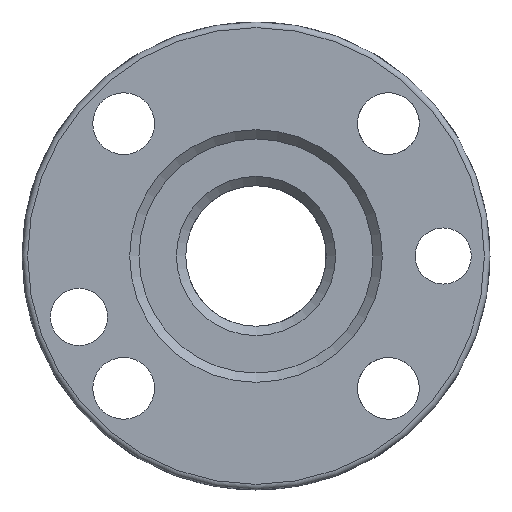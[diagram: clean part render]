
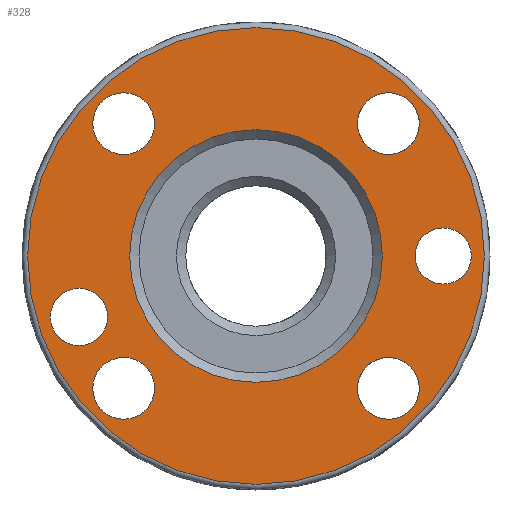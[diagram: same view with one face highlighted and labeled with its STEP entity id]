
A CAD part, front view. The second image highlights one B-rep face of the part: STEP entity #328.
In plain terms, the highlighted planar face has unit normal (0, -1, 0).
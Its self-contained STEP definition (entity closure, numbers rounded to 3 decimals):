
#73=CARTESIAN_POINT('',(-24.4,0.,0.0));
#74=VERTEX_POINT('',#73);
#75=CARTESIAN_POINT('',(0.,0.,0.0));
#76=DIRECTION('',(0.0,1.0,0.0));
#77=DIRECTION('',(1.0,0.0,0.0));
#78=AXIS2_PLACEMENT_3D('',#75,#76,#77);
#79=CIRCLE('',#78,24.4);
#80=EDGE_CURVE('',#74,#74,#79,.T.);
#243=CARTESIAN_POINT('',(-18.75,0.,0.0));
#244=DIRECTION('',(0.0,-1.0,0.0));
#245=DIRECTION('',(0.0,0.0,-1.0));
#246=AXIS2_PLACEMENT_3D('',#243,#244,#245);
#247=PLANE('',#246);
#248=ORIENTED_EDGE('',*,*,#80,.F.);
#249=EDGE_LOOP('',(#248));
#250=FACE_OUTER_BOUND('',#249,.T.);
#251=CARTESIAN_POINT('',(-13.5,0.,0.));
#252=VERTEX_POINT('',#251);
#253=CARTESIAN_POINT('',(0.,0.,0.0));
#254=DIRECTION('',(0.0,-1.0,0.0));
#255=DIRECTION('',(1.0,0.0,0.0));
#256=AXIS2_PLACEMENT_3D('',#253,#254,#255);
#257=CIRCLE('',#256,13.5);
#258=EDGE_CURVE('',#252,#252,#257,.T.);
#259=ORIENTED_EDGE('',*,*,#258,.F.);
#260=EDGE_LOOP('',(#259));
#261=FACE_BOUND('',#260,.T.);
#262=CARTESIAN_POINT('',(17.0,0.,0.));
#263=VERTEX_POINT('',#262);
#264=CARTESIAN_POINT('',(20.0,0.,0.0));
#265=DIRECTION('',(0.0,1.0,0.0));
#266=DIRECTION('',(1.0,0.0,0.0));
#267=AXIS2_PLACEMENT_3D('',#264,#265,#266);
#268=CIRCLE('',#267,3.);
#269=EDGE_CURVE('',#263,#263,#268,.T.);
#270=ORIENTED_EDGE('',*,*,#269,.T.);
#271=EDGE_LOOP('',(#270));
#272=FACE_BOUND('',#271,.T.);
#273=CARTESIAN_POINT('',(-17.442,0.,-14.142));
#274=VERTEX_POINT('',#273);
#275=CARTESIAN_POINT('',(-14.142,0.0,-14.142));
#276=DIRECTION('',(0.0,1.0,0.0));
#277=DIRECTION('',(1.0,0.0,0.0));
#278=AXIS2_PLACEMENT_3D('',#275,#276,#277);
#279=CIRCLE('',#278,3.3);
#280=EDGE_CURVE('',#274,#274,#279,.T.);
#281=ORIENTED_EDGE('',*,*,#280,.T.);
#282=EDGE_LOOP('',(#281));
#283=FACE_BOUND('',#282,.T.);
#284=CARTESIAN_POINT('',(10.842,0.,-14.142));
#285=VERTEX_POINT('',#284);
#286=CARTESIAN_POINT('',(14.142,0.,-14.142));
#287=DIRECTION('',(0.0,1.0,0.0));
#288=DIRECTION('',(1.0,0.0,0.0));
#289=AXIS2_PLACEMENT_3D('',#286,#287,#288);
#290=CIRCLE('',#289,3.3);
#291=EDGE_CURVE('',#285,#285,#290,.T.);
#292=ORIENTED_EDGE('',*,*,#291,.T.);
#293=EDGE_LOOP('',(#292));
#294=FACE_BOUND('',#293,.T.);
#295=CARTESIAN_POINT('',(10.842,0.,14.142));
#296=VERTEX_POINT('',#295);
#297=CARTESIAN_POINT('',(14.142,0.,14.142));
#298=DIRECTION('',(0.0,1.0,0.0));
#299=DIRECTION('',(1.0,0.0,0.0));
#300=AXIS2_PLACEMENT_3D('',#297,#298,#299);
#301=CIRCLE('',#300,3.3);
#302=EDGE_CURVE('',#296,#296,#301,.T.);
#303=ORIENTED_EDGE('',*,*,#302,.T.);
#304=EDGE_LOOP('',(#303));
#305=FACE_BOUND('',#304,.T.);
#306=CARTESIAN_POINT('',(-17.442,0.,14.142));
#307=VERTEX_POINT('',#306);
#308=CARTESIAN_POINT('',(-14.142,0.0,14.142));
#309=DIRECTION('',(0.0,1.0,0.0));
#310=DIRECTION('',(1.0,0.0,0.0));
#311=AXIS2_PLACEMENT_3D('',#308,#309,#310);
#312=CIRCLE('',#311,3.3);
#313=EDGE_CURVE('',#307,#307,#312,.T.);
#314=ORIENTED_EDGE('',*,*,#313,.T.);
#315=EDGE_LOOP('',(#314));
#316=FACE_BOUND('',#315,.T.);
#317=CARTESIAN_POINT('',(-21.96,0.,-6.511));
#318=VERTEX_POINT('',#317);
#319=CARTESIAN_POINT('',(-18.91,0.0,-6.511));
#320=DIRECTION('',(0.0,1.0,0.0));
#321=DIRECTION('',(1.0,0.0,0.0));
#322=AXIS2_PLACEMENT_3D('',#319,#320,#321);
#323=CIRCLE('',#322,3.05);
#324=EDGE_CURVE('',#318,#318,#323,.T.);
#325=ORIENTED_EDGE('',*,*,#324,.T.);
#326=EDGE_LOOP('',(#325));
#327=FACE_BOUND('',#326,.T.);
#328=ADVANCED_FACE('',(#250,#261,#272,#283,#294,#305,#316,#327),#247,.T.);
